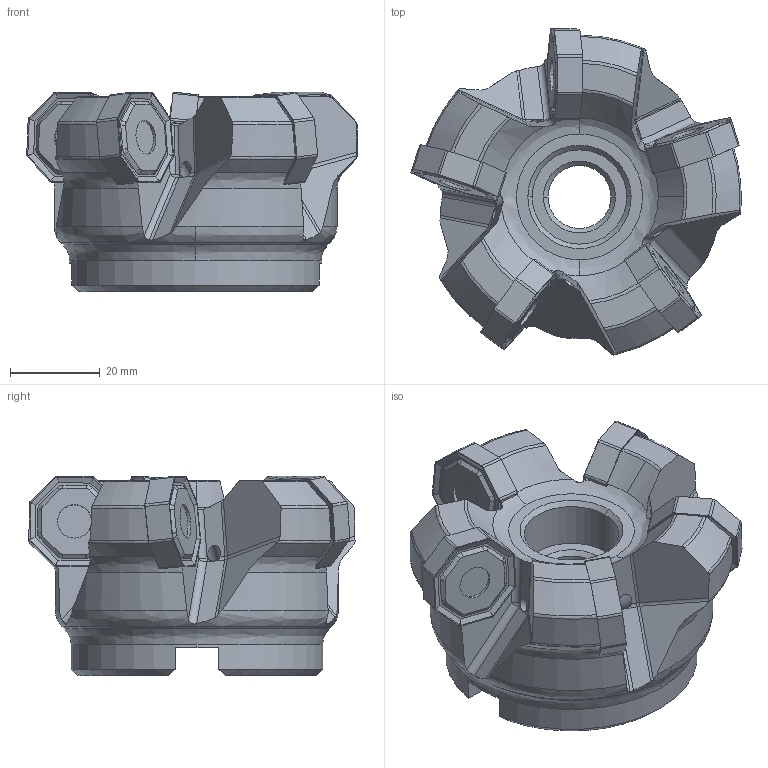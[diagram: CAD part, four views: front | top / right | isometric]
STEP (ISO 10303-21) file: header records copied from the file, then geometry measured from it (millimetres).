
FILE_DESCRIPTION (( 'STEP AP214' ), '1' );
FILE_NAME ('01-0605.STEP', '2022-08-16T22:41:49', ( '' ), ( '' ), 'SwSTEP 2.0', 'SolidWorks 2021', '' );
FILE_SCHEMA (( 'AUTOMOTIVE_DESIGN' ));
Length unit declared in the file: inch
Products named in the file (1): 01-0605
Bounding box: 73.55 x 72.58 x 44.45 mm (x, y, z)
Volume: 90615.5 mm3; surface area: 19391.7 mm2
Topology: 1 solids, 1 shells, 545 faces, 1620 edges, 1020 vertices
Faces by surface type: plane 223, cone 155, cylinder 123, bspline 44
Entity records: 19193 total; most frequent: CARTESIAN_POINT 5425, ORIENTED_EDGE 3112, DIRECTION 2660, EDGE_CURVE 1556, VERTEX_POINT 1020, AXIS2_PLACEMENT_3D 949, LINE 762, VECTOR 762
